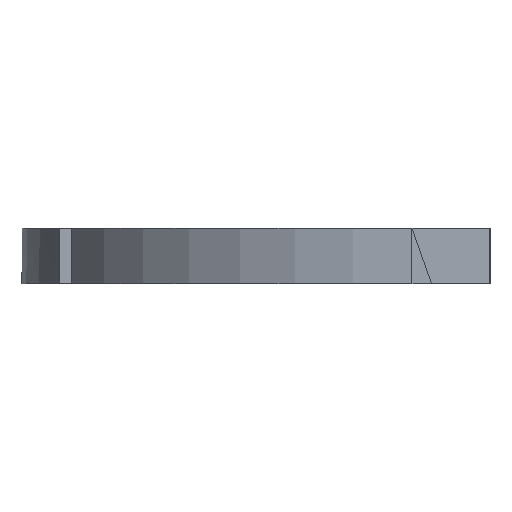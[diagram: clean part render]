
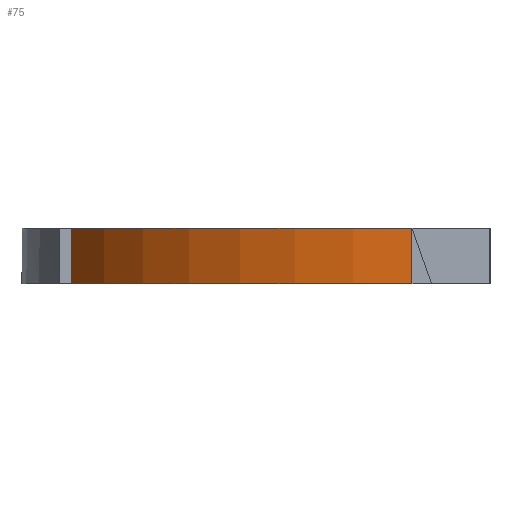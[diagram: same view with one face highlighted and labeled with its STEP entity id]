
A CAD part, front view. The second image highlights one B-rep face of the part: STEP entity #75.
In plain terms, the highlighted cylindrical face has radius 70 mm (diameter 140 mm), a partial arc.
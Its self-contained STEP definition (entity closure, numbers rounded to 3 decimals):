
#75=ADVANCED_FACE('',(#141),#142,.T.);
#141=FACE_OUTER_BOUND('',#223,.T.);
#142=CYLINDRICAL_SURFACE('',#224,70.0);
#223=EDGE_LOOP('',(#444,#445,#446,#447));
#224=AXIS2_PLACEMENT_3D('',#448,#449,#450);
#444=ORIENTED_EDGE('',*,*,#647,.F.);
#445=ORIENTED_EDGE('',*,*,#624,.F.);
#446=ORIENTED_EDGE('',*,*,#604,.T.);
#447=ORIENTED_EDGE('',*,*,#648,.F.);
#448=CARTESIAN_POINT('',(170.427,0.,-9.862));
#449=DIRECTION('',(0.,0.,-1.0));
#450=DIRECTION('',(0.,-1.0,0.));
#604=EDGE_CURVE('',#733,#730,#734,.T.);
#624=EDGE_CURVE('',#733,#769,#770,.T.);
#647=EDGE_CURVE('',#769,#802,#803,.T.);
#648=EDGE_CURVE('',#802,#730,#804,.T.);
#730=VERTEX_POINT('',#930);
#733=VERTEX_POINT('',#934);
#734=LINE('',#935,#936);
#769=VERTEX_POINT('',#987);
#770=CIRCLE('',#988,70.0);
#802=VERTEX_POINT('',#1038);
#803=LINE('',#1039,#1040);
#804=CIRCLE('',#1041,70.0);
#930=CARTESIAN_POINT('',(170.427,-70.,0.138));
#934=CARTESIAN_POINT('',(170.427,-70.,-9.862));
#935=CARTESIAN_POINT('',(170.427,-70.,-9.862));
#936=VECTOR('',#1173,1.0);
#987=CARTESIAN_POINT('',(109.239,-34.,-9.862));
#988=AXIS2_PLACEMENT_3D('',#1199,#1200,#1201);
#1038=CARTESIAN_POINT('',(109.239,-34.,0.138));
#1039=CARTESIAN_POINT('',(109.239,-34.,-4.862));
#1040=VECTOR('',#1232,1.0);
#1041=AXIS2_PLACEMENT_3D('',#1233,#1234,#1235);
#1173=DIRECTION('',(0.,0.,1.0));
#1199=CARTESIAN_POINT('',(170.427,0.,-9.862));
#1200=DIRECTION('',(0.,0.,-1.0));
#1201=DIRECTION('',(0.,-1.0,0.));
#1232=DIRECTION('',(0.,0.,1.0));
#1233=CARTESIAN_POINT('',(170.427,0.,0.138));
#1234=DIRECTION('',(0.,0.,1.0));
#1235=DIRECTION('',(0.,-1.0,0.));
